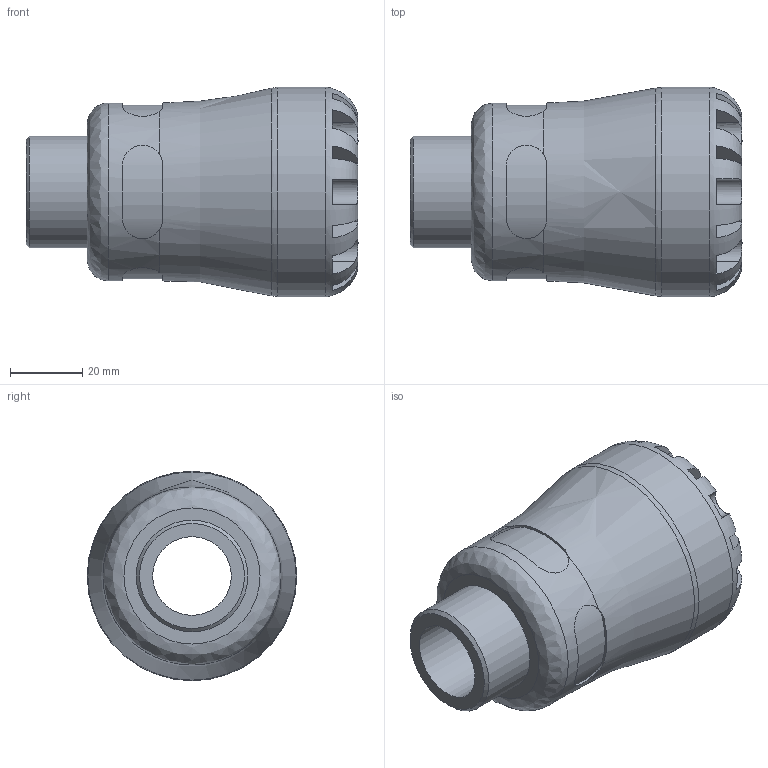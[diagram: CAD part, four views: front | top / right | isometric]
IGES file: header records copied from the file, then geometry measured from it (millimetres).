
Global section: file name: 107200032010_197200032010.ipt; native system: Autodesk Inventor 2015; preprocessor: unknown; author: KIM; date: 20170122.104929; units: millimetre
Bounding box: 92 x 58 x 58 mm (x, y, z)
Volume: 114303.3 mm3; surface area: 26583 mm2
Topology: 1 solids, 1 shells, 99 faces, 264 edges, 169 vertices
Faces by surface type: plane 60, revolution 23, cylinder 15, cone 1
Full cylindrical faces by diameter (mm): 30.931 x1, 49.3 x1, 58 x1
